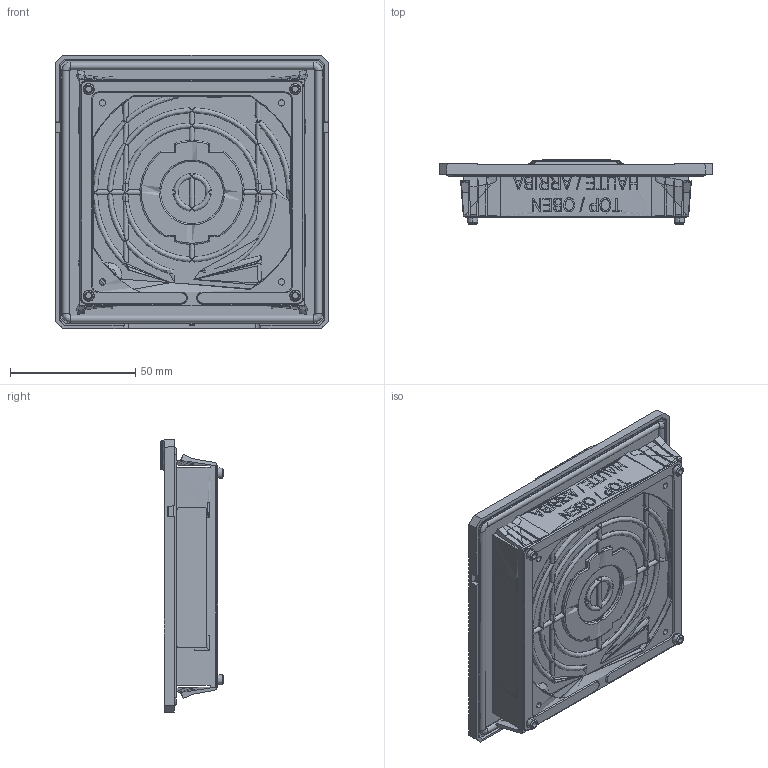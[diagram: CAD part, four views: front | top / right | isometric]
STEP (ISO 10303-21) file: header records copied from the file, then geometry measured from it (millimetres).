
FILE_DESCRIPTION (( 'STEP AP203' ), '1' );
FILE_NAME ('EFA100R5_V2.step', '2013-02-08T08:24:11', ( '' ), ( '' ), 'SwSTEP 2.0', 'SolidWorks 2011', '' );
FILE_SCHEMA (( 'CONFIG_CONTROL_DESIGN' ));
Length unit declared in the file: millimetre
Products named in the file (1): EFA100R5_V2
Bounding box: 109 x 25.44 x 109.36 mm (x, y, z)
Surface area: 73267.8 mm2 (no closed solid volume)
Topology: 0 solids, 40 shells, 1399 faces, 4401 edges, 2740 vertices
Faces by surface type: plane 619, cylinder 457, bspline 281, cone 42
Full cylindrical faces by diameter (mm): 2 x10
Entity records: 73804 total; most frequent: CARTESIAN_POINT 41211, ORIENTED_EDGE 7650, DIRECTION 4813, EDGE_CURVE 4184, VERTEX_POINT 2746, LINE 2045, VECTOR 2045, B_SPLINE_CURVE_WITH_KNOTS 1852
